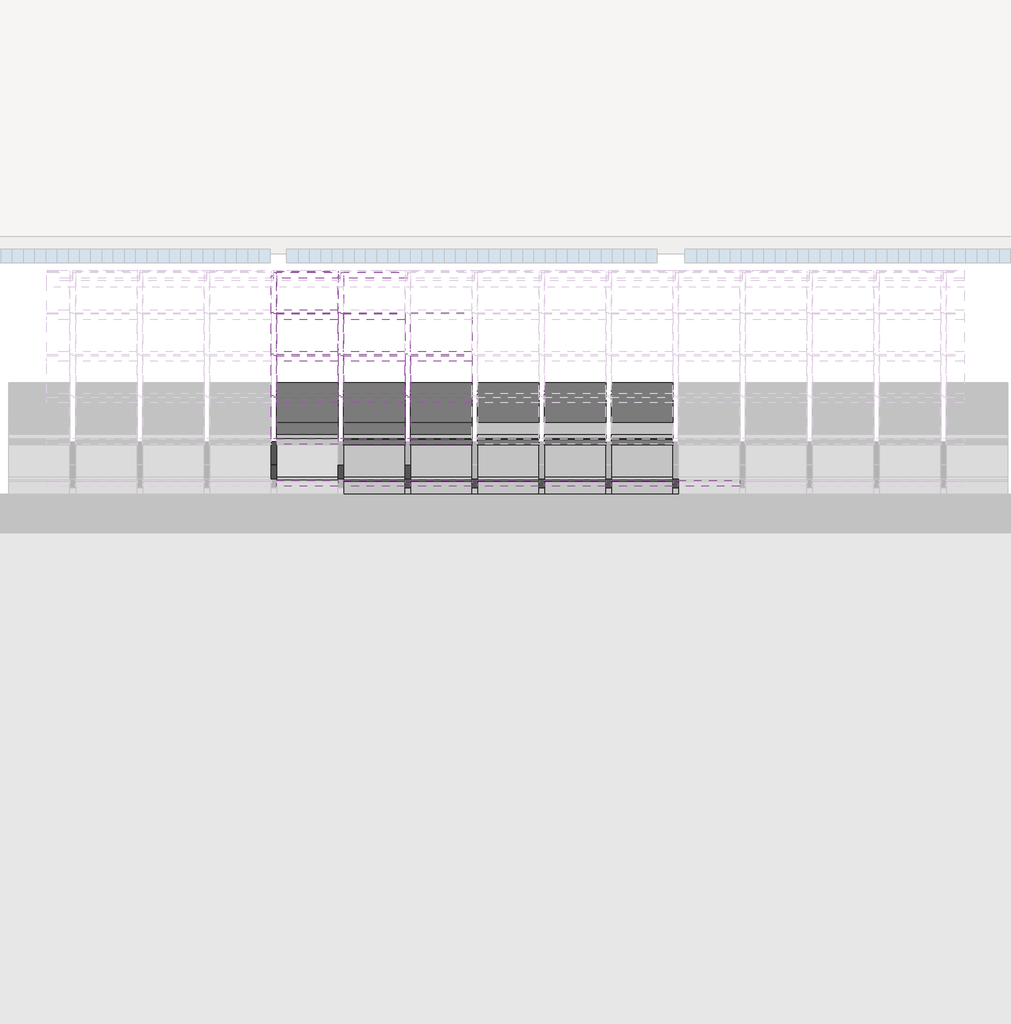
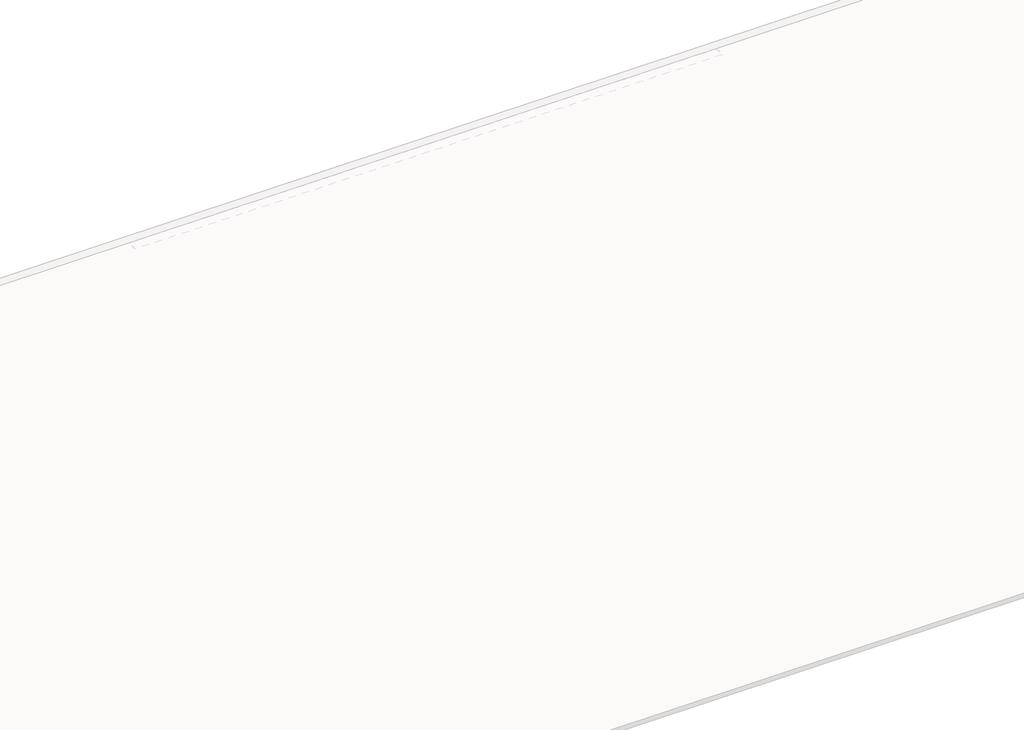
# One storey, part 32 of 57: 88 members, 35 plates.
"""IFC4 building model written with IfcOpenShell, lengths in millimetres."""

from ifc_helpers import new_model, si_unit, origin, place, context, project, spatial, transform, mapped, element, save
from components import rectangular_mullion_4c4137b9, rectangular_mullion_59984080, rectangular_mullion_2d2423ea, rectangular_mullion_caibro_df98490b, rectangular_mullion_caibro_e4384bba, rectangular_mullion_caibro_0993a3cf, rectangular_mullion_caibro_9bd7bc61, empty_system_panel_vazio_178faf58, empty_system_panel_vazio_2c78850d

model = new_model("IFC4")

# Units and contexts
model_context = context("Model", 3, world=origin())
ifc_project = project(units=[si_unit("LENGTHUNIT", "METRE", prefix="MILLI")], contexts=[model_context])

# Site, building, storey
site = spatial("IfcSite", under=ifc_project)
building = spatial("IfcBuilding", under=site)
storey = spatial("IfcBuildingStorey", under=building, Name="Nível 2", Elevation=4100.0)

# Members
placement = place(None, origin())
rectangular_mullion_shape = rectangular_mullion_4c4137b9(model_context)
element("IfcMember", 1, ObjectType="Rectangular Mullion : Ripa", at=placement, inside=storey, context=model_context, shape_type="MappedRepresentation", body=[
    mapped(rectangular_mullion_shape, transform((20260.3781013, 15566.1284427, 5819.8877114), x_axis=(0.0, 0.9578262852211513, 0.2873478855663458), y_axis=(0.0, 0.2873478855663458, -0.9578262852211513), z_axis=(-1.0, 0.0, 0.0))),
])
element("IfcMember", 2, ObjectType="Rectangular Mullion : Ripa", at=placement, inside=storey, context=model_context, shape_type="MappedRepresentation", body=[
    mapped(rectangular_mullion_shape, transform((20857.4328578, 15566.1284427, 5819.8877114), x_axis=(0.0, 0.9578262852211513, 0.2873478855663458), y_axis=(0.0, 0.2873478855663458, -0.9578262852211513), z_axis=(-1.0, 0.0, 0.0))),
])
rectangular_mullion_2_shape = rectangular_mullion_59984080(model_context)
element("IfcMember", 3, ObjectType="Rectangular Mullion : Ripa", at=placement, inside=storey, context=model_context, shape_type="MappedRepresentation", body=[
    mapped(rectangular_mullion_2_shape, transform((22076.5423706, 12234.5331147, 4820.409113), x_axis=(0.0, 0.9578262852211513, 0.2873478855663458), y_axis=(0.0, 0.2873478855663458, -0.9578262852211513), z_axis=(-1.0, 0.0, 0.0))),
])
element("IfcMember", 4, ObjectType="Rectangular Mullion : Ripa", at=placement, inside=storey, context=model_context, shape_type="MappedRepresentation", body=[
    mapped(rectangular_mullion_2_shape, transform((22673.597127, 12234.5331147, 4820.409113), x_axis=(0.0, 0.9578262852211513, 0.2873478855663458), y_axis=(0.0, 0.2873478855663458, -0.9578262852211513), z_axis=(-1.0, 0.0, 0.0))),
])
element("IfcMember", 5, ObjectType="Rectangular Mullion : Ripa", at=placement, inside=storey, context=model_context, shape_type="MappedRepresentation", body=[
    mapped(rectangular_mullion_2_shape, transform((23270.6518835, 12234.5331147, 4820.409113), x_axis=(0.0, 0.9578262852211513, 0.2873478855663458), y_axis=(0.0, 0.2873478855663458, -0.9578262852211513), z_axis=(-1.0, 0.0, 0.0))),
])
element("IfcMember", 6, ObjectType="Rectangular Mullion : Ripa", at=placement, inside=storey, context=model_context, shape_type="MappedRepresentation", body=[
    mapped(rectangular_mullion_2_shape, transform((23867.7066399, 12234.5331147, 4820.409113), x_axis=(0.0, 0.9578262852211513, 0.2873478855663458), y_axis=(0.0, 0.2873478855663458, -0.9578262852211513), z_axis=(-1.0, 0.0, 0.0))),
])
element("IfcMember", 7, ObjectType="Rectangular Mullion : Ripa", at=placement, inside=storey, context=model_context, shape_type="MappedRepresentation", body=[
    mapped(rectangular_mullion_2_shape, transform((22076.5423706, 12604.7103734, 4931.4622906), x_axis=(0.0, 0.9578262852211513, 0.2873478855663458), y_axis=(0.0, 0.2873478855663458, -0.9578262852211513), z_axis=(-1.0, 0.0, 0.0))),
])
element("IfcMember", 8, ObjectType="Rectangular Mullion : Ripa", at=placement, inside=storey, context=model_context, shape_type="MappedRepresentation", body=[
    mapped(rectangular_mullion_2_shape, transform((22673.597127, 12604.7103734, 4931.4622906), x_axis=(0.0, 0.9578262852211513, 0.2873478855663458), y_axis=(0.0, 0.2873478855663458, -0.9578262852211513), z_axis=(-1.0, 0.0, 0.0))),
])
element("IfcMember", 9, ObjectType="Rectangular Mullion : Ripa", at=placement, inside=storey, context=model_context, shape_type="MappedRepresentation", body=[
    mapped(rectangular_mullion_2_shape, transform((23270.6518835, 12604.7103734, 4931.4622906), x_axis=(0.0, 0.9578262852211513, 0.2873478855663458), y_axis=(0.0, 0.2873478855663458, -0.9578262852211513), z_axis=(-1.0, 0.0, 0.0))),
])
element("IfcMember", 10, ObjectType="Rectangular Mullion : Ripa", at=placement, inside=storey, context=model_context, shape_type="MappedRepresentation", body=[
    mapped(rectangular_mullion_2_shape, transform((23867.7066399, 12604.7103734, 4931.4622906), x_axis=(0.0, 0.9578262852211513, 0.2873478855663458), y_axis=(0.0, 0.2873478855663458, -0.9578262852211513), z_axis=(-1.0, 0.0, 0.0))),
])
element("IfcMember", 11, ObjectType="Rectangular Mullion : Ripa", at=placement, inside=storey, context=model_context, shape_type="MappedRepresentation", body=[
    mapped(rectangular_mullion_2_shape, transform((22076.5423706, 12974.8876321, 5042.5154682), x_axis=(0.0, 0.9578262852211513, 0.2873478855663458), y_axis=(0.0, 0.2873478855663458, -0.9578262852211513), z_axis=(-1.0, 0.0, 0.0))),
])
element("IfcMember", 12, ObjectType="Rectangular Mullion : Ripa", at=placement, inside=storey, context=model_context, shape_type="MappedRepresentation", body=[
    mapped(rectangular_mullion_2_shape, transform((22673.597127, 12974.8876321, 5042.5154682), x_axis=(0.0, 0.9578262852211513, 0.2873478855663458), y_axis=(0.0, 0.2873478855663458, -0.9578262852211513), z_axis=(-1.0, 0.0, 0.0))),
])
element("IfcMember", 13, ObjectType="Rectangular Mullion : Ripa", at=placement, inside=storey, context=model_context, shape_type="MappedRepresentation", body=[
    mapped(rectangular_mullion_2_shape, transform((23270.6518835, 12974.8876321, 5042.5154682), x_axis=(0.0, 0.9578262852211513, 0.2873478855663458), y_axis=(0.0, 0.2873478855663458, -0.9578262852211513), z_axis=(-1.0, 0.0, 0.0))),
])
element("IfcMember", 14, ObjectType="Rectangular Mullion : Ripa", at=placement, inside=storey, context=model_context, shape_type="MappedRepresentation", body=[
    mapped(rectangular_mullion_2_shape, transform((23867.7066399, 12974.8876321, 5042.5154682), x_axis=(0.0, 0.9578262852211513, 0.2873478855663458), y_axis=(0.0, 0.2873478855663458, -0.9578262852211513), z_axis=(-1.0, 0.0, 0.0))),
])
element("IfcMember", 15, ObjectType="Rectangular Mullion : Ripa", at=placement, inside=storey, context=model_context, shape_type="MappedRepresentation", body=[
    mapped(rectangular_mullion_2_shape, transform((20882.4328578, 13345.0648907, 5153.5686458), x_axis=(0.0, 0.9578262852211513, 0.2873478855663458), y_axis=(0.0, 0.2873478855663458, -0.9578262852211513), z_axis=(-1.0, 0.0, 0.0))),
])
element("IfcMember", 16, ObjectType="Rectangular Mullion : Ripa", at=placement, inside=storey, context=model_context, shape_type="MappedRepresentation", body=[
    mapped(rectangular_mullion_2_shape, transform((21479.4876142, 13345.0648907, 5153.5686458), x_axis=(0.0, 0.9578262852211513, 0.2873478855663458), y_axis=(0.0, 0.2873478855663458, -0.9578262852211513), z_axis=(-1.0, 0.0, 0.0))),
])
element("IfcMember", 17, ObjectType="Rectangular Mullion : Ripa", at=placement, inside=storey, context=model_context, shape_type="MappedRepresentation", body=[
    mapped(rectangular_mullion_2_shape, transform((22076.5423706, 13345.0648907, 5153.5686458), x_axis=(0.0, 0.9578262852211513, 0.2873478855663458), y_axis=(0.0, 0.2873478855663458, -0.9578262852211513), z_axis=(-1.0, 0.0, 0.0))),
])
element("IfcMember", 18, ObjectType="Rectangular Mullion : Ripa", at=placement, inside=storey, context=model_context, shape_type="MappedRepresentation", body=[
    mapped(rectangular_mullion_2_shape, transform((22673.597127, 13345.0648907, 5153.5686458), x_axis=(0.0, 0.9578262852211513, 0.2873478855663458), y_axis=(0.0, 0.2873478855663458, -0.9578262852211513), z_axis=(-1.0, 0.0, 0.0))),
])
element("IfcMember", 19, ObjectType="Rectangular Mullion : Ripa", at=placement, inside=storey, context=model_context, shape_type="MappedRepresentation", body=[
    mapped(rectangular_mullion_2_shape, transform((23270.6518835, 13345.0648907, 5153.5686458), x_axis=(0.0, 0.9578262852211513, 0.2873478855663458), y_axis=(0.0, 0.2873478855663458, -0.9578262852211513), z_axis=(-1.0, 0.0, 0.0))),
])
element("IfcMember", 20, ObjectType="Rectangular Mullion : Ripa", at=placement, inside=storey, context=model_context, shape_type="MappedRepresentation", body=[
    mapped(rectangular_mullion_2_shape, transform((23867.7066399, 13345.0648907, 5153.5686458), x_axis=(0.0, 0.9578262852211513, 0.2873478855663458), y_axis=(0.0, 0.2873478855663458, -0.9578262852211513), z_axis=(-1.0, 0.0, 0.0))),
])
element("IfcMember", 21, ObjectType="Rectangular Mullion : Ripa", at=placement, inside=storey, context=model_context, shape_type="MappedRepresentation", body=[
    mapped(rectangular_mullion_2_shape, transform((20285.3781013, 13715.2421494, 5264.6218234), x_axis=(0.0, 0.9578262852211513, 0.2873478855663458), y_axis=(0.0, 0.2873478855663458, -0.9578262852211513), z_axis=(-1.0, 0.0, 0.0))),
])
element("IfcMember", 22, ObjectType="Rectangular Mullion : Ripa", at=placement, inside=storey, context=model_context, shape_type="MappedRepresentation", body=[
    mapped(rectangular_mullion_2_shape, transform((20882.4328578, 13715.2421494, 5264.6218234), x_axis=(0.0, 0.9578262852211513, 0.2873478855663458), y_axis=(0.0, 0.2873478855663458, -0.9578262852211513), z_axis=(-1.0, 0.0, 0.0))),
])
element("IfcMember", 23, ObjectType="Rectangular Mullion : Ripa", at=placement, inside=storey, context=model_context, shape_type="MappedRepresentation", body=[
    mapped(rectangular_mullion_2_shape, transform((21479.4876142, 13715.2421494, 5264.6218234), x_axis=(0.0, 0.9578262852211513, 0.2873478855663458), y_axis=(0.0, 0.2873478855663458, -0.9578262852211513), z_axis=(-1.0, 0.0, 0.0))),
])
element("IfcMember", 24, ObjectType="Rectangular Mullion : Ripa", at=placement, inside=storey, context=model_context, shape_type="MappedRepresentation", body=[
    mapped(rectangular_mullion_2_shape, transform((22076.5423706, 13715.2421494, 5264.6218234), x_axis=(0.0, 0.9578262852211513, 0.2873478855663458), y_axis=(0.0, 0.2873478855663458, -0.9578262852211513), z_axis=(-1.0, 0.0, 0.0))),
])
element("IfcMember", 25, ObjectType="Rectangular Mullion : Ripa", at=placement, inside=storey, context=model_context, shape_type="MappedRepresentation", body=[
    mapped(rectangular_mullion_2_shape, transform((22673.597127, 13715.2421494, 5264.6218234), x_axis=(0.0, 0.9578262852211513, 0.2873478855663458), y_axis=(0.0, 0.2873478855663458, -0.9578262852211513), z_axis=(-1.0, 0.0, 0.0))),
])
element("IfcMember", 26, ObjectType="Rectangular Mullion : Ripa", at=placement, inside=storey, context=model_context, shape_type="MappedRepresentation", body=[
    mapped(rectangular_mullion_2_shape, transform((23270.6518835, 13715.2421494, 5264.6218234), x_axis=(0.0, 0.9578262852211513, 0.2873478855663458), y_axis=(0.0, 0.2873478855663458, -0.9578262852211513), z_axis=(-1.0, 0.0, 0.0))),
])
element("IfcMember", 27, ObjectType="Rectangular Mullion : Ripa", at=placement, inside=storey, context=model_context, shape_type="MappedRepresentation", body=[
    mapped(rectangular_mullion_2_shape, transform((23867.7066399, 13715.2421494, 5264.6218234), x_axis=(0.0, 0.9578262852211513, 0.2873478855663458), y_axis=(0.0, 0.2873478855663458, -0.9578262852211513), z_axis=(-1.0, 0.0, 0.0))),
])
element("IfcMember", 28, ObjectType="Rectangular Mullion : Ripa", at=placement, inside=storey, context=model_context, shape_type="MappedRepresentation", body=[
    mapped(rectangular_mullion_2_shape, transform((20285.3781013, 14085.4194081, 5375.675001), x_axis=(0.0, 0.9578262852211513, 0.2873478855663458), y_axis=(0.0, 0.2873478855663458, -0.9578262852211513), z_axis=(-1.0, 0.0, 0.0))),
])
element("IfcMember", 29, ObjectType="Rectangular Mullion : Ripa", at=placement, inside=storey, context=model_context, shape_type="MappedRepresentation", body=[
    mapped(rectangular_mullion_2_shape, transform((20882.4328578, 14085.4194081, 5375.675001), x_axis=(0.0, 0.9578262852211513, 0.2873478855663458), y_axis=(0.0, 0.2873478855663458, -0.9578262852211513), z_axis=(-1.0, 0.0, 0.0))),
])
element("IfcMember", 30, ObjectType="Rectangular Mullion : Ripa", at=placement, inside=storey, context=model_context, shape_type="MappedRepresentation", body=[
    mapped(rectangular_mullion_2_shape, transform((21479.4876142, 14085.4194081, 5375.675001), x_axis=(0.0, 0.9578262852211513, 0.2873478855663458), y_axis=(0.0, 0.2873478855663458, -0.9578262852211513), z_axis=(-1.0, 0.0, 0.0))),
])
element("IfcMember", 31, ObjectType="Rectangular Mullion : Ripa", at=placement, inside=storey, context=model_context, shape_type="MappedRepresentation", body=[
    mapped(rectangular_mullion_2_shape, transform((20285.3781013, 14455.5966667, 5486.7281786), x_axis=(0.0, 0.9578262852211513, 0.2873478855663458), y_axis=(0.0, 0.2873478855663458, -0.9578262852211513), z_axis=(-1.0, 0.0, 0.0))),
])
element("IfcMember", 32, ObjectType="Rectangular Mullion : Ripa", at=placement, inside=storey, context=model_context, shape_type="MappedRepresentation", body=[
    mapped(rectangular_mullion_2_shape, transform((20882.4328578, 14455.5966667, 5486.7281786), x_axis=(0.0, 0.9578262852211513, 0.2873478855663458), y_axis=(0.0, 0.2873478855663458, -0.9578262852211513), z_axis=(-1.0, 0.0, 0.0))),
])
element("IfcMember", 33, ObjectType="Rectangular Mullion : Ripa", at=placement, inside=storey, context=model_context, shape_type="MappedRepresentation", body=[
    mapped(rectangular_mullion_2_shape, transform((21479.4876142, 14455.5966667, 5486.7281786), x_axis=(0.0, 0.9578262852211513, 0.2873478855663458), y_axis=(0.0, 0.2873478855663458, -0.9578262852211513), z_axis=(-1.0, 0.0, 0.0))),
])
element("IfcMember", 34, ObjectType="Rectangular Mullion : Ripa", at=placement, inside=storey, context=model_context, shape_type="MappedRepresentation", body=[
    mapped(rectangular_mullion_2_shape, transform((20285.3781013, 14825.7739254, 5597.7813562), x_axis=(0.0, 0.9578262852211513, 0.2873478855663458), y_axis=(0.0, 0.2873478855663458, -0.9578262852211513), z_axis=(-1.0, 0.0, 0.0))),
])
element("IfcMember", 35, ObjectType="Rectangular Mullion : Ripa", at=placement, inside=storey, context=model_context, shape_type="MappedRepresentation", body=[
    mapped(rectangular_mullion_2_shape, transform((20882.4328578, 14825.7739254, 5597.7813562), x_axis=(0.0, 0.9578262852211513, 0.2873478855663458), y_axis=(0.0, 0.2873478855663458, -0.9578262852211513), z_axis=(-1.0, 0.0, 0.0))),
])
element("IfcMember", 36, ObjectType="Rectangular Mullion : Ripa", at=placement, inside=storey, context=model_context, shape_type="MappedRepresentation", body=[
    mapped(rectangular_mullion_2_shape, transform((21479.4876142, 14825.7739254, 5597.7813562), x_axis=(0.0, 0.9578262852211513, 0.2873478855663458), y_axis=(0.0, 0.2873478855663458, -0.9578262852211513), z_axis=(-1.0, 0.0, 0.0))),
])
element("IfcMember", 37, ObjectType="Rectangular Mullion : Ripa", at=placement, inside=storey, context=model_context, shape_type="MappedRepresentation", body=[
    mapped(rectangular_mullion_2_shape, transform((20285.3781013, 15195.9511841, 5708.8345338), x_axis=(0.0, 0.9578262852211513, 0.2873478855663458), y_axis=(0.0, 0.2873478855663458, -0.9578262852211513), z_axis=(-1.0, 0.0, 0.0))),
])
element("IfcMember", 38, ObjectType="Rectangular Mullion : Ripa", at=placement, inside=storey, context=model_context, shape_type="MappedRepresentation", body=[
    mapped(rectangular_mullion_2_shape, transform((20882.4328578, 15195.9511841, 5708.8345338), x_axis=(0.0, 0.9578262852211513, 0.2873478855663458), y_axis=(0.0, 0.2873478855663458, -0.9578262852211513), z_axis=(-1.0, 0.0, 0.0))),
])
rectangular_mullion_3_shape = rectangular_mullion_2d2423ea(model_context)
element("IfcMember", 39, ObjectType="Rectangular Mullion : Terça", at=placement, inside=storey, context=model_context, shape_type="MappedRepresentation", body=[
    mapped(rectangular_mullion_3_shape, transform((20285.3781013, 13411.2689826, 5110.7880343), x_axis=(0.0, 0.9578262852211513, 0.2873478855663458), y_axis=(0.0, 0.2873478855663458, -0.9578262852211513), z_axis=(-1.0, 0.0, 0.0))),
])
element("IfcMember", 40, ObjectType="Rectangular Mullion : Terça", at=placement, inside=storey, context=model_context, shape_type="MappedRepresentation", body=[
    mapped(rectangular_mullion_3_shape, transform((20882.4328578, 13411.2689826, 5110.7880343), x_axis=(0.0, 0.9578262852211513, 0.2873478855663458), y_axis=(0.0, 0.2873478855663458, -0.9578262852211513), z_axis=(-1.0, 0.0, 0.0))),
])
element("IfcMember", 41, ObjectType="Rectangular Mullion : Terça", at=placement, inside=storey, context=model_context, shape_type="MappedRepresentation", body=[
    mapped(rectangular_mullion_3_shape, transform((21479.4876142, 13411.2689826, 5110.7880343), x_axis=(0.0, 0.9578262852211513, 0.2873478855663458), y_axis=(0.0, 0.2873478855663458, -0.9578262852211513), z_axis=(-1.0, 0.0, 0.0))),
])
element("IfcMember", 42, ObjectType="Rectangular Mullion : Terça", at=placement, inside=storey, context=model_context, shape_type="MappedRepresentation", body=[
    mapped(rectangular_mullion_3_shape, transform((22076.5423706, 13411.2689826, 5110.7880343), x_axis=(0.0, 0.9578262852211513, 0.2873478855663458), y_axis=(0.0, 0.2873478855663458, -0.9578262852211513), z_axis=(-1.0, 0.0, 0.0))),
])
element("IfcMember", 43, ObjectType="Rectangular Mullion : Terça", at=placement, inside=storey, context=model_context, shape_type="MappedRepresentation", body=[
    mapped(rectangular_mullion_3_shape, transform((22673.597127, 13411.2689826, 5110.7880343), x_axis=(0.0, 0.9578262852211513, 0.2873478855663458), y_axis=(0.0, 0.2873478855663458, -0.9578262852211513), z_axis=(-1.0, 0.0, 0.0))),
])
element("IfcMember", 44, ObjectType="Rectangular Mullion : Terça", at=placement, inside=storey, context=model_context, shape_type="MappedRepresentation", body=[
    mapped(rectangular_mullion_3_shape, transform((23270.6518835, 13411.2689826, 5110.7880343), x_axis=(0.0, 0.9578262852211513, 0.2873478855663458), y_axis=(0.0, 0.2873478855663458, -0.9578262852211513), z_axis=(-1.0, 0.0, 0.0))),
])
element("IfcMember", 45, ObjectType="Rectangular Mullion : Terça", at=placement, inside=storey, context=model_context, shape_type="MappedRepresentation", body=[
    mapped(rectangular_mullion_3_shape, transform((23867.7066399, 13411.2689826, 5110.7880343), x_axis=(0.0, 0.9578262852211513, 0.2873478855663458), y_axis=(0.0, 0.2873478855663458, -0.9578262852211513), z_axis=(-1.0, 0.0, 0.0))),
])
rectangular_mullion_caibro_shape = rectangular_mullion_caibro_df98490b(model_context)
element("IfcMember", 46, ObjectType="Rectangular Mullion : Caibro", at=placement, inside=storey, context=model_context, shape_type="MappedRepresentation", body=[
    mapped(rectangular_mullion_caibro_shape, transform((20260.3781013, 15518.2371285, 5805.5203171), x_axis=(1.0, 0.0, 0.0), y_axis=(0.0, 0.28734788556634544, -0.9578262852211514), z_axis=(0.0, 0.9578262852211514, 0.28734788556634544))),
])
element("IfcMember", 47, ObjectType="Rectangular Mullion : Caibro", at=placement, inside=storey, context=model_context, shape_type="MappedRepresentation", body=[
    mapped(rectangular_mullion_caibro_shape, transform((20857.4328578, 15518.2371285, 5805.5203171), x_axis=(1.0, 0.0, 0.0), y_axis=(0.0, 0.28734788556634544, -0.9578262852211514), z_axis=(0.0, 0.9578262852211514, 0.28734788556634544))),
])
rectangular_mullion_caibro_2_shape = rectangular_mullion_caibro_e4384bba(model_context)
element("IfcMember", 48, ObjectType="Rectangular Mullion : Caibro", at=placement, inside=storey, context=model_context, shape_type="MappedRepresentation", body=[
    mapped(rectangular_mullion_caibro_2_shape, transform((20260.3781013, 14085.4194081, 5375.675001), x_axis=(1.0, 0.0, 0.0), y_axis=(0.0, 0.28734788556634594, -0.9578262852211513), z_axis=(0.0, 0.9578262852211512, 0.2873478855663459))),
])
element("IfcMember", 49, ObjectType="Rectangular Mullion : Caibro", at=placement, inside=storey, context=model_context, shape_type="MappedRepresentation", body=[
    mapped(rectangular_mullion_caibro_2_shape, transform((20260.3781013, 14455.5966667, 5486.7281786), x_axis=(1.0, 0.0, 0.0), y_axis=(0.0, 0.2873478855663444, -0.9578262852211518), z_axis=(0.0, 0.9578262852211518, 0.2873478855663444))),
])
element("IfcMember", 50, ObjectType="Rectangular Mullion : Caibro", at=placement, inside=storey, context=model_context, shape_type="MappedRepresentation", body=[
    mapped(rectangular_mullion_caibro_2_shape, transform((20260.3781013, 14825.7739254, 5597.7813562), x_axis=(1.0, 0.0, 0.0), y_axis=(0.0, 0.287347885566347, -0.9578262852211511), z_axis=(0.0, 0.9578262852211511, 0.287347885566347))),
])
element("IfcMember", 51, ObjectType="Rectangular Mullion : Caibro", at=placement, inside=storey, context=model_context, shape_type="MappedRepresentation", body=[
    mapped(rectangular_mullion_caibro_2_shape, transform((20260.3781013, 15195.9511841, 5708.8345338), x_axis=(1.0, 0.0, 0.0), y_axis=(0.0, 0.28734788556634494, -0.9578262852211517), z_axis=(0.0, 0.9578262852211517, 0.28734788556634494))),
])
element("IfcMember", 52, ObjectType="Rectangular Mullion : Caibro", at=placement, inside=storey, context=model_context, shape_type="MappedRepresentation", body=[
    mapped(rectangular_mullion_caibro_2_shape, transform((20857.4328578, 14085.4194081, 5375.675001), x_axis=(1.0, 0.0, 0.0), y_axis=(0.0, 0.28734788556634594, -0.9578262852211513), z_axis=(0.0, 0.9578262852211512, 0.2873478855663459))),
])
element("IfcMember", 53, ObjectType="Rectangular Mullion : Caibro", at=placement, inside=storey, context=model_context, shape_type="MappedRepresentation", body=[
    mapped(rectangular_mullion_caibro_2_shape, transform((20857.4328578, 14455.5966667, 5486.7281786), x_axis=(1.0, 0.0, 0.0), y_axis=(0.0, 0.2873478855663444, -0.9578262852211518), z_axis=(0.0, 0.9578262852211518, 0.2873478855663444))),
])
element("IfcMember", 54, ObjectType="Rectangular Mullion : Caibro", at=placement, inside=storey, context=model_context, shape_type="MappedRepresentation", body=[
    mapped(rectangular_mullion_caibro_2_shape, transform((20857.4328578, 14825.7739254, 5597.7813562), x_axis=(1.0, 0.0, 0.0), y_axis=(0.0, 0.287347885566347, -0.9578262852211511), z_axis=(0.0, 0.9578262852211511, 0.287347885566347))),
])
element("IfcMember", 55, ObjectType="Rectangular Mullion : Caibro", at=placement, inside=storey, context=model_context, shape_type="MappedRepresentation", body=[
    mapped(rectangular_mullion_caibro_2_shape, transform((20857.4328578, 15195.9511841, 5708.8345338), x_axis=(1.0, 0.0, 0.0), y_axis=(0.0, 0.28734788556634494, -0.9578262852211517), z_axis=(0.0, 0.9578262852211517, 0.28734788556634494))),
])
element("IfcMember", 56, ObjectType="Rectangular Mullion : Caibro", at=placement, inside=storey, context=model_context, shape_type="MappedRepresentation", body=[
    mapped(rectangular_mullion_caibro_2_shape, transform((21454.4876142, 13345.0648907, 5153.5686458), x_axis=(1.0, 0.0, 0.0), y_axis=(0.0, 0.28734788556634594, -0.9578262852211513), z_axis=(0.0, 0.9578262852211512, 0.2873478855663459))),
])
element("IfcMember", 57, ObjectType="Rectangular Mullion : Caibro", at=placement, inside=storey, context=model_context, shape_type="MappedRepresentation", body=[
    mapped(rectangular_mullion_caibro_2_shape, transform((21454.4876142, 13715.2421494, 5264.6218234), x_axis=(1.0, 0.0, 0.0), y_axis=(0.0, 0.28734788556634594, -0.9578262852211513), z_axis=(0.0, 0.9578262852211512, 0.2873478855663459))),
])
element("IfcMember", 58, ObjectType="Rectangular Mullion : Caibro", at=placement, inside=storey, context=model_context, shape_type="MappedRepresentation", body=[
    mapped(rectangular_mullion_caibro_2_shape, transform((21454.4876142, 14085.4194081, 5375.675001), x_axis=(1.0, 0.0, 0.0), y_axis=(0.0, 0.28734788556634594, -0.9578262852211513), z_axis=(0.0, 0.9578262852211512, 0.2873478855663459))),
])
element("IfcMember", 59, ObjectType="Rectangular Mullion : Caibro", at=placement, inside=storey, context=model_context, shape_type="MappedRepresentation", body=[
    mapped(rectangular_mullion_caibro_2_shape, transform((21454.4876142, 14455.5966667, 5486.7281786), x_axis=(1.0, 0.0, 0.0), y_axis=(0.0, 0.2873478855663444, -0.9578262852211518), z_axis=(0.0, 0.9578262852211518, 0.2873478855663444))),
])
element("IfcMember", 60, ObjectType="Rectangular Mullion : Caibro", at=placement, inside=storey, context=model_context, shape_type="MappedRepresentation", body=[
    mapped(rectangular_mullion_caibro_2_shape, transform((21454.4876142, 14825.7739254, 5597.7813562), x_axis=(1.0, 0.0, 0.0), y_axis=(0.0, 0.287347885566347, -0.9578262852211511), z_axis=(0.0, 0.9578262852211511, 0.287347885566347))),
])
element("IfcMember", 61, ObjectType="Rectangular Mullion : Caibro", at=placement, inside=storey, context=model_context, shape_type="MappedRepresentation", body=[
    mapped(rectangular_mullion_caibro_2_shape, transform((22051.5423706, 12234.5331147, 4820.409113), x_axis=(1.0, 0.0, 0.0), y_axis=(0.0, 0.2873478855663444, -0.9578262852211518), z_axis=(0.0, 0.9578262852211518, 0.2873478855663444))),
])
element("IfcMember", 62, ObjectType="Rectangular Mullion : Caibro", at=placement, inside=storey, context=model_context, shape_type="MappedRepresentation", body=[
    mapped(rectangular_mullion_caibro_2_shape, transform((22051.5423706, 12604.7103734, 4931.4622906), x_axis=(1.0, 0.0, 0.0), y_axis=(0.0, 0.2873478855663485, -0.9578262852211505), z_axis=(0.0, 0.9578262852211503, 0.28734788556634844))),
])
element("IfcMember", 63, ObjectType="Rectangular Mullion : Caibro", at=placement, inside=storey, context=model_context, shape_type="MappedRepresentation", body=[
    mapped(rectangular_mullion_caibro_2_shape, transform((22051.5423706, 12974.8876321, 5042.5154682), x_axis=(1.0, 0.0, 0.0), y_axis=(0.0, 0.2873478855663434, -0.957826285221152), z_axis=(0.0, 0.957826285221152, 0.2873478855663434))),
])
element("IfcMember", 64, ObjectType="Rectangular Mullion : Caibro", at=placement, inside=storey, context=model_context, shape_type="MappedRepresentation", body=[
    mapped(rectangular_mullion_caibro_2_shape, transform((22051.5423706, 13345.0648907, 5153.5686458), x_axis=(1.0, 0.0, 0.0), y_axis=(0.0, 0.28734788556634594, -0.9578262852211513), z_axis=(0.0, 0.9578262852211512, 0.2873478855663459))),
])
element("IfcMember", 65, ObjectType="Rectangular Mullion : Caibro", at=placement, inside=storey, context=model_context, shape_type="MappedRepresentation", body=[
    mapped(rectangular_mullion_caibro_2_shape, transform((22051.5423706, 13715.2421494, 5264.6218234), x_axis=(1.0, 0.0, 0.0), y_axis=(0.0, 0.28734788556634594, -0.9578262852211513), z_axis=(0.0, 0.9578262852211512, 0.2873478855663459))),
])
element("IfcMember", 66, ObjectType="Rectangular Mullion : Caibro", at=placement, inside=storey, context=model_context, shape_type="MappedRepresentation", body=[
    mapped(rectangular_mullion_caibro_2_shape, transform((22648.597127, 12234.5331147, 4820.409113), x_axis=(1.0, 0.0, 0.0), y_axis=(0.0, 0.2873478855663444, -0.9578262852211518), z_axis=(0.0, 0.9578262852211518, 0.2873478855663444))),
])
element("IfcMember", 67, ObjectType="Rectangular Mullion : Caibro", at=placement, inside=storey, context=model_context, shape_type="MappedRepresentation", body=[
    mapped(rectangular_mullion_caibro_2_shape, transform((22648.597127, 12604.7103734, 4931.4622906), x_axis=(1.0, 0.0, 0.0), y_axis=(0.0, 0.2873478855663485, -0.9578262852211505), z_axis=(0.0, 0.9578262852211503, 0.28734788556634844))),
])
element("IfcMember", 68, ObjectType="Rectangular Mullion : Caibro", at=placement, inside=storey, context=model_context, shape_type="MappedRepresentation", body=[
    mapped(rectangular_mullion_caibro_2_shape, transform((22648.597127, 12974.8876321, 5042.5154682), x_axis=(1.0, 0.0, 0.0), y_axis=(0.0, 0.2873478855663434, -0.957826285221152), z_axis=(0.0, 0.957826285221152, 0.2873478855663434))),
])
element("IfcMember", 69, ObjectType="Rectangular Mullion : Caibro", at=placement, inside=storey, context=model_context, shape_type="MappedRepresentation", body=[
    mapped(rectangular_mullion_caibro_2_shape, transform((22648.597127, 13345.0648907, 5153.5686458), x_axis=(1.0, 0.0, 0.0), y_axis=(0.0, 0.28734788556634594, -0.9578262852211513), z_axis=(0.0, 0.9578262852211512, 0.2873478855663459))),
])
element("IfcMember", 70, ObjectType="Rectangular Mullion : Caibro", at=placement, inside=storey, context=model_context, shape_type="MappedRepresentation", body=[
    mapped(rectangular_mullion_caibro_2_shape, transform((22648.597127, 13715.2421494, 5264.6218234), x_axis=(1.0, 0.0, 0.0), y_axis=(0.0, 0.28734788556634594, -0.9578262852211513), z_axis=(0.0, 0.9578262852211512, 0.2873478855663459))),
])
element("IfcMember", 71, ObjectType="Rectangular Mullion : Caibro", at=placement, inside=storey, context=model_context, shape_type="MappedRepresentation", body=[
    mapped(rectangular_mullion_caibro_2_shape, transform((23245.6518835, 12234.5331147, 4820.409113), x_axis=(1.0, 0.0, 0.0), y_axis=(0.0, 0.2873478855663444, -0.9578262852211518), z_axis=(0.0, 0.9578262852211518, 0.2873478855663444))),
])
element("IfcMember", 72, ObjectType="Rectangular Mullion : Caibro", at=placement, inside=storey, context=model_context, shape_type="MappedRepresentation", body=[
    mapped(rectangular_mullion_caibro_2_shape, transform((23245.6518835, 12604.7103734, 4931.4622906), x_axis=(1.0, 0.0, 0.0), y_axis=(0.0, 0.28734788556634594, -0.9578262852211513), z_axis=(0.0, 0.9578262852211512, 0.2873478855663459))),
])
element("IfcMember", 73, ObjectType="Rectangular Mullion : Caibro", at=placement, inside=storey, context=model_context, shape_type="MappedRepresentation", body=[
    mapped(rectangular_mullion_caibro_2_shape, transform((23245.6518835, 12974.8876321, 5042.5154682), x_axis=(1.0, 0.0, 0.0), y_axis=(0.0, 0.28734788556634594, -0.9578262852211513), z_axis=(0.0, 0.9578262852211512, 0.2873478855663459))),
])
element("IfcMember", 74, ObjectType="Rectangular Mullion : Caibro", at=placement, inside=storey, context=model_context, shape_type="MappedRepresentation", body=[
    mapped(rectangular_mullion_caibro_2_shape, transform((23245.6518835, 13345.0648907, 5153.5686458), x_axis=(1.0, 0.0, 0.0), y_axis=(0.0, 0.28734788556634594, -0.9578262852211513), z_axis=(0.0, 0.9578262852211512, 0.2873478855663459))),
])
element("IfcMember", 75, ObjectType="Rectangular Mullion : Caibro", at=placement, inside=storey, context=model_context, shape_type="MappedRepresentation", body=[
    mapped(rectangular_mullion_caibro_2_shape, transform((23245.6518835, 13715.2421494, 5264.6218234), x_axis=(1.0, 0.0, 0.0), y_axis=(0.0, 0.28734788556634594, -0.9578262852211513), z_axis=(0.0, 0.9578262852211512, 0.2873478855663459))),
])
element("IfcMember", 76, ObjectType="Rectangular Mullion : Caibro", at=placement, inside=storey, context=model_context, shape_type="MappedRepresentation", body=[
    mapped(rectangular_mullion_caibro_2_shape, transform((23842.7066399, 12234.5331147, 4820.409113), x_axis=(1.0, 0.0, 0.0), y_axis=(0.0, 0.2873478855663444, -0.9578262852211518), z_axis=(0.0, 0.9578262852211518, 0.2873478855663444))),
])
element("IfcMember", 77, ObjectType="Rectangular Mullion : Caibro", at=placement, inside=storey, context=model_context, shape_type="MappedRepresentation", body=[
    mapped(rectangular_mullion_caibro_2_shape, transform((23842.7066399, 12604.7103734, 4931.4622906), x_axis=(1.0, 0.0, 0.0), y_axis=(0.0, 0.2873478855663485, -0.9578262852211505), z_axis=(0.0, 0.9578262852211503, 0.28734788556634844))),
])
element("IfcMember", 78, ObjectType="Rectangular Mullion : Caibro", at=placement, inside=storey, context=model_context, shape_type="MappedRepresentation", body=[
    mapped(rectangular_mullion_caibro_2_shape, transform((23842.7066399, 12974.8876321, 5042.5154682), x_axis=(1.0, 0.0, 0.0), y_axis=(0.0, 0.2873478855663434, -0.957826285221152), z_axis=(0.0, 0.957826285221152, 0.2873478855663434))),
])
element("IfcMember", 79, ObjectType="Rectangular Mullion : Caibro", at=placement, inside=storey, context=model_context, shape_type="MappedRepresentation", body=[
    mapped(rectangular_mullion_caibro_2_shape, transform((23842.7066399, 13345.0648907, 5153.5686458), x_axis=(1.0, 0.0, 0.0), y_axis=(0.0, 0.28734788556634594, -0.9578262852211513), z_axis=(0.0, 0.9578262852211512, 0.2873478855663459))),
])
element("IfcMember", 80, ObjectType="Rectangular Mullion : Caibro", at=placement, inside=storey, context=model_context, shape_type="MappedRepresentation", body=[
    mapped(rectangular_mullion_caibro_2_shape, transform((23842.7066399, 13715.2421494, 5264.6218234), x_axis=(1.0, 0.0, 0.0), y_axis=(0.0, 0.28734788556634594, -0.9578262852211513), z_axis=(0.0, 0.9578262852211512, 0.2873478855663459))),
])
rectangular_mullion_caibro_3_shape = rectangular_mullion_caibro_0993a3cf(model_context)
element("IfcMember", 81, ObjectType="Rectangular Mullion : Caibro", at=placement, inside=storey, context=model_context, shape_type="MappedRepresentation", body=[
    mapped(rectangular_mullion_caibro_3_shape, transform((20260.3781013, 15508.6588656, 5740.0049992), x_axis=(1.0, 0.0, 0.0), y_axis=(0.0, 0.28734788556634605, -0.9578262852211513), z_axis=(0.0, 0.9578262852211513, 0.28734788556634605))),
])
rectangular_mullion_caibro_4_shape = rectangular_mullion_caibro_9bd7bc61(model_context)
element("IfcMember", 82, ObjectType="Rectangular Mullion : Caibro", at=placement, inside=storey, context=model_context, shape_type="MappedRepresentation", body=[
    mapped(rectangular_mullion_caibro_4_shape, transform((20260.3781013, 13411.2689826, 5110.7880343), x_axis=(1.0, 0.0, 0.0), y_axis=(0.0, 0.2873478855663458, -0.9578262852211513), z_axis=(0.0, 0.9578262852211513, 0.2873478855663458))),
])
element("IfcMember", 83, ObjectType="Rectangular Mullion : Caibro", at=placement, inside=storey, context=model_context, shape_type="MappedRepresentation", body=[
    mapped(rectangular_mullion_caibro_4_shape, transform((20857.4328578, 13411.2689826, 5110.7880343), x_axis=(1.0, 0.0, 0.0), y_axis=(0.0, 0.2873478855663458, -0.9578262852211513), z_axis=(0.0, 0.9578262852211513, 0.2873478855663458))),
])
element("IfcMember", 84, ObjectType="Rectangular Mullion : Caibro", at=placement, inside=storey, context=model_context, shape_type="MappedRepresentation", body=[
    mapped(rectangular_mullion_caibro_4_shape, transform((21454.4876142, 13411.2689826, 5110.7880343), x_axis=(1.0, 0.0, 0.0), y_axis=(0.0, 0.2873478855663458, -0.9578262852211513), z_axis=(0.0, 0.9578262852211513, 0.2873478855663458))),
])
element("IfcMember", 85, ObjectType="Rectangular Mullion : Caibro", at=placement, inside=storey, context=model_context, shape_type="MappedRepresentation", body=[
    mapped(rectangular_mullion_caibro_4_shape, transform((22051.5423706, 13411.2689826, 5110.7880343), x_axis=(1.0, 0.0, 0.0), y_axis=(0.0, 0.2873478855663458, -0.9578262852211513), z_axis=(0.0, 0.9578262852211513, 0.2873478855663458))),
])
element("IfcMember", 86, ObjectType="Rectangular Mullion : Caibro", at=placement, inside=storey, context=model_context, shape_type="MappedRepresentation", body=[
    mapped(rectangular_mullion_caibro_4_shape, transform((22648.597127, 13411.2689826, 5110.7880343), x_axis=(1.0, 0.0, 0.0), y_axis=(0.0, 0.2873478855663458, -0.9578262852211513), z_axis=(0.0, 0.9578262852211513, 0.2873478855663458))),
])
element("IfcMember", 87, ObjectType="Rectangular Mullion : Caibro", at=placement, inside=storey, context=model_context, shape_type="MappedRepresentation", body=[
    mapped(rectangular_mullion_caibro_4_shape, transform((23245.6518835, 13411.2689826, 5110.7880343), x_axis=(1.0, 0.0, 0.0), y_axis=(0.0, 0.2873478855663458, -0.9578262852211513), z_axis=(0.0, 0.9578262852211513, 0.2873478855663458))),
])
element("IfcMember", 88, ObjectType="Rectangular Mullion : Caibro", at=placement, inside=storey, context=model_context, shape_type="MappedRepresentation", body=[
    mapped(rectangular_mullion_caibro_4_shape, transform((23842.7066399, 13411.2689826, 5110.7880343), x_axis=(1.0, 0.0, 0.0), y_axis=(0.0, 0.2873478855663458, -0.9578262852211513), z_axis=(0.0, 0.9578262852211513, 0.2873478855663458))),
])

# Plates
empty_system_panel_vazio_shape = empty_system_panel_vazio_178faf58(model_context)
element("IfcPlate", 89, ObjectType="Empty System Panel : Vazio", at=placement, inside=storey, context=model_context, shape_type="MappedRepresentation", body=[
    mapped(empty_system_panel_vazio_shape, transform((22350.0697488, 12234.5331147, 4820.409113), x_axis=(1.0, 0.0, 0.0), y_axis=(0.0, 0.2873478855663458, -0.9578262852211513), z_axis=(0.0, 0.9578262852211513, 0.2873478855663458))),
])
element("IfcPlate", 90, ObjectType="Empty System Panel : Vazio", at=placement, inside=storey, context=model_context, shape_type="MappedRepresentation", body=[
    mapped(empty_system_panel_vazio_shape, transform((22947.1245052, 12234.5331147, 4820.409113), x_axis=(1.0, 0.0, 0.0), y_axis=(0.0, 0.2873478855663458, -0.9578262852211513), z_axis=(0.0, 0.9578262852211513, 0.2873478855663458))),
])
element("IfcPlate", 91, ObjectType="Empty System Panel : Vazio", at=placement, inside=storey, context=model_context, shape_type="MappedRepresentation", body=[
    mapped(empty_system_panel_vazio_shape, transform((23544.1792617, 12234.5331147, 4820.409113), x_axis=(1.0, 0.0, 0.0), y_axis=(0.0, 0.2873478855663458, -0.9578262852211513), z_axis=(0.0, 0.9578262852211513, 0.2873478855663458))),
])
element("IfcPlate", 92, ObjectType="Empty System Panel : Vazio", at=placement, inside=storey, context=model_context, shape_type="MappedRepresentation", body=[
    mapped(empty_system_panel_vazio_shape, transform((22350.0697488, 12604.7103734, 4931.4622906), x_axis=(1.0, 0.0, 0.0), y_axis=(0.0, 0.2873478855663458, -0.9578262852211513), z_axis=(0.0, 0.9578262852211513, 0.2873478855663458))),
])
element("IfcPlate", 93, ObjectType="Empty System Panel : Vazio", at=placement, inside=storey, context=model_context, shape_type="MappedRepresentation", body=[
    mapped(empty_system_panel_vazio_shape, transform((22947.1245052, 12604.7103734, 4931.4622906), x_axis=(1.0, 0.0, 0.0), y_axis=(0.0, 0.2873478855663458, -0.9578262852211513), z_axis=(0.0, 0.9578262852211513, 0.2873478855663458))),
])
element("IfcPlate", 94, ObjectType="Empty System Panel : Vazio", at=placement, inside=storey, context=model_context, shape_type="MappedRepresentation", body=[
    mapped(empty_system_panel_vazio_shape, transform((23544.1792617, 12604.7103734, 4931.4622906), x_axis=(1.0, 0.0, 0.0), y_axis=(0.0, 0.2873478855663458, -0.9578262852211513), z_axis=(0.0, 0.9578262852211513, 0.2873478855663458))),
])
element("IfcPlate", 95, ObjectType="Empty System Panel : Vazio", at=placement, inside=storey, context=model_context, shape_type="MappedRepresentation", body=[
    mapped(empty_system_panel_vazio_shape, transform((22350.0697488, 12974.8876321, 5042.5154682), x_axis=(1.0, 0.0, 0.0), y_axis=(0.0, 0.2873478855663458, -0.9578262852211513), z_axis=(0.0, 0.9578262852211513, 0.2873478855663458))),
])
element("IfcPlate", 96, ObjectType="Empty System Panel : Vazio", at=placement, inside=storey, context=model_context, shape_type="MappedRepresentation", body=[
    mapped(empty_system_panel_vazio_shape, transform((22947.1245052, 12974.8876321, 5042.5154682), x_axis=(1.0, 0.0, 0.0), y_axis=(0.0, 0.2873478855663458, -0.9578262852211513), z_axis=(0.0, 0.9578262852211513, 0.2873478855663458))),
])
element("IfcPlate", 97, ObjectType="Empty System Panel : Vazio", at=placement, inside=storey, context=model_context, shape_type="MappedRepresentation", body=[
    mapped(empty_system_panel_vazio_shape, transform((23544.1792617, 12974.8876321, 5042.5154682), x_axis=(1.0, 0.0, 0.0), y_axis=(0.0, 0.2873478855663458, -0.9578262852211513), z_axis=(0.0, 0.9578262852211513, 0.2873478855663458))),
])
element("IfcPlate", 98, ObjectType="Empty System Panel : Vazio", at=placement, inside=storey, context=model_context, shape_type="MappedRepresentation", body=[
    mapped(empty_system_panel_vazio_shape, transform((21155.960236, 13345.0648907, 5153.5686458), x_axis=(1.0, 0.0, 0.0), y_axis=(0.0, 0.2873478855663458, -0.9578262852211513), z_axis=(0.0, 0.9578262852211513, 0.2873478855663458))),
])
element("IfcPlate", 99, ObjectType="Empty System Panel : Vazio", at=placement, inside=storey, context=model_context, shape_type="MappedRepresentation", body=[
    mapped(empty_system_panel_vazio_shape, transform((21753.0149924, 13345.0648907, 5153.5686458), x_axis=(1.0, 0.0, 0.0), y_axis=(0.0, 0.2873478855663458, -0.9578262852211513), z_axis=(0.0, 0.9578262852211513, 0.2873478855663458))),
])
element("IfcPlate", 100, ObjectType="Empty System Panel : Vazio", at=placement, inside=storey, context=model_context, shape_type="MappedRepresentation", body=[
    mapped(empty_system_panel_vazio_shape, transform((22350.0697488, 13345.0648907, 5153.5686458), x_axis=(1.0, 0.0, 0.0), y_axis=(0.0, 0.2873478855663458, -0.9578262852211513), z_axis=(0.0, 0.9578262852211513, 0.2873478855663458))),
])
element("IfcPlate", 101, ObjectType="Empty System Panel : Vazio", at=placement, inside=storey, context=model_context, shape_type="MappedRepresentation", body=[
    mapped(empty_system_panel_vazio_shape, transform((22947.1245052, 13345.0648907, 5153.5686458), x_axis=(1.0, 0.0, 0.0), y_axis=(0.0, 0.2873478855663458, -0.9578262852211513), z_axis=(0.0, 0.9578262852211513, 0.2873478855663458))),
])
element("IfcPlate", 102, ObjectType="Empty System Panel : Vazio", at=placement, inside=storey, context=model_context, shape_type="MappedRepresentation", body=[
    mapped(empty_system_panel_vazio_shape, transform((23544.1792617, 13345.0648907, 5153.5686458), x_axis=(1.0, 0.0, 0.0), y_axis=(0.0, 0.2873478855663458, -0.9578262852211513), z_axis=(0.0, 0.9578262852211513, 0.2873478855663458))),
])
element("IfcPlate", 103, ObjectType="Empty System Panel : Vazio", at=placement, inside=storey, context=model_context, shape_type="MappedRepresentation", body=[
    mapped(empty_system_panel_vazio_shape, transform((21155.960236, 13715.2421494, 5264.6218234), x_axis=(1.0, 0.0, 0.0), y_axis=(0.0, 0.2873478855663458, -0.9578262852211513), z_axis=(0.0, 0.9578262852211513, 0.2873478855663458))),
])
element("IfcPlate", 104, ObjectType="Empty System Panel : Vazio", at=placement, inside=storey, context=model_context, shape_type="MappedRepresentation", body=[
    mapped(empty_system_panel_vazio_shape, transform((21753.0149924, 13715.2421494, 5264.6218234), x_axis=(1.0, 0.0, 0.0), y_axis=(0.0, 0.2873478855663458, -0.9578262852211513), z_axis=(0.0, 0.9578262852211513, 0.2873478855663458))),
])
element("IfcPlate", 105, ObjectType="Empty System Panel : Vazio", at=placement, inside=storey, context=model_context, shape_type="MappedRepresentation", body=[
    mapped(empty_system_panel_vazio_shape, transform((22350.0697488, 13715.2421494, 5264.6218234), x_axis=(1.0, 0.0, 0.0), y_axis=(0.0, 0.2873478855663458, -0.9578262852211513), z_axis=(0.0, 0.9578262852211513, 0.2873478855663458))),
])
element("IfcPlate", 106, ObjectType="Empty System Panel : Vazio", at=placement, inside=storey, context=model_context, shape_type="MappedRepresentation", body=[
    mapped(empty_system_panel_vazio_shape, transform((22947.1245052, 13715.2421494, 5264.6218234), x_axis=(1.0, 0.0, 0.0), y_axis=(0.0, 0.2873478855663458, -0.9578262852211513), z_axis=(0.0, 0.9578262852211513, 0.2873478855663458))),
])
element("IfcPlate", 107, ObjectType="Empty System Panel : Vazio", at=placement, inside=storey, context=model_context, shape_type="MappedRepresentation", body=[
    mapped(empty_system_panel_vazio_shape, transform((23544.1792617, 13715.2421494, 5264.6218234), x_axis=(1.0, 0.0, 0.0), y_axis=(0.0, 0.2873478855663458, -0.9578262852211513), z_axis=(0.0, 0.9578262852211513, 0.2873478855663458))),
])
element("IfcPlate", 108, ObjectType="Empty System Panel : Vazio", at=placement, inside=storey, context=model_context, shape_type="MappedRepresentation", body=[
    mapped(empty_system_panel_vazio_shape, transform((20558.9054795, 14085.4194081, 5375.675001), x_axis=(1.0, 0.0, 0.0), y_axis=(0.0, 0.2873478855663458, -0.9578262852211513), z_axis=(0.0, 0.9578262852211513, 0.2873478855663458))),
])
element("IfcPlate", 109, ObjectType="Empty System Panel : Vazio", at=placement, inside=storey, context=model_context, shape_type="MappedRepresentation", body=[
    mapped(empty_system_panel_vazio_shape, transform((21155.960236, 14085.4194081, 5375.675001), x_axis=(1.0, 0.0, 0.0), y_axis=(0.0, 0.2873478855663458, -0.9578262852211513), z_axis=(0.0, 0.9578262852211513, 0.2873478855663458))),
])
element("IfcPlate", 110, ObjectType="Empty System Panel : Vazio", at=placement, inside=storey, context=model_context, shape_type="MappedRepresentation", body=[
    mapped(empty_system_panel_vazio_shape, transform((21753.0149924, 14085.4194081, 5375.675001), x_axis=(1.0, 0.0, 0.0), y_axis=(0.0, 0.2873478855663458, -0.9578262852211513), z_axis=(0.0, 0.9578262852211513, 0.2873478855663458))),
])
element("IfcPlate", 111, ObjectType="Empty System Panel : Vazio", at=placement, inside=storey, context=model_context, shape_type="MappedRepresentation", body=[
    mapped(empty_system_panel_vazio_shape, transform((20558.9054795, 14455.5966667, 5486.7281786), x_axis=(1.0, 0.0, 0.0), y_axis=(0.0, 0.2873478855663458, -0.9578262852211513), z_axis=(0.0, 0.9578262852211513, 0.2873478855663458))),
])
element("IfcPlate", 112, ObjectType="Empty System Panel : Vazio", at=placement, inside=storey, context=model_context, shape_type="MappedRepresentation", body=[
    mapped(empty_system_panel_vazio_shape, transform((21155.960236, 14455.5966667, 5486.7281786), x_axis=(1.0, 0.0, 0.0), y_axis=(0.0, 0.2873478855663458, -0.9578262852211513), z_axis=(0.0, 0.9578262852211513, 0.2873478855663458))),
])
element("IfcPlate", 113, ObjectType="Empty System Panel : Vazio", at=placement, inside=storey, context=model_context, shape_type="MappedRepresentation", body=[
    mapped(empty_system_panel_vazio_shape, transform((21753.0149924, 14455.5966667, 5486.7281786), x_axis=(1.0, 0.0, 0.0), y_axis=(0.0, 0.2873478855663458, -0.9578262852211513), z_axis=(0.0, 0.9578262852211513, 0.2873478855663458))),
])
element("IfcPlate", 114, ObjectType="Empty System Panel : Vazio", at=placement, inside=storey, context=model_context, shape_type="MappedRepresentation", body=[
    mapped(empty_system_panel_vazio_shape, transform((20558.9054795, 14825.7739254, 5597.7813562), x_axis=(1.0, 0.0, 0.0), y_axis=(0.0, 0.2873478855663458, -0.9578262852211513), z_axis=(0.0, 0.9578262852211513, 0.2873478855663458))),
])
element("IfcPlate", 115, ObjectType="Empty System Panel : Vazio", at=placement, inside=storey, context=model_context, shape_type="MappedRepresentation", body=[
    mapped(empty_system_panel_vazio_shape, transform((21155.960236, 14825.7739254, 5597.7813562), x_axis=(1.0, 0.0, 0.0), y_axis=(0.0, 0.2873478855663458, -0.9578262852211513), z_axis=(0.0, 0.9578262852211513, 0.2873478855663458))),
])
element("IfcPlate", 116, ObjectType="Empty System Panel : Vazio", at=placement, inside=storey, context=model_context, shape_type="MappedRepresentation", body=[
    mapped(empty_system_panel_vazio_shape, transform((21753.0149924, 14825.7739254, 5597.7813562), x_axis=(1.0, 0.0, 0.0), y_axis=(0.0, 0.2873478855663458, -0.9578262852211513), z_axis=(0.0, 0.9578262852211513, 0.2873478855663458))),
])
element("IfcPlate", 117, ObjectType="Empty System Panel : Vazio", at=placement, inside=storey, context=model_context, shape_type="MappedRepresentation", body=[
    mapped(empty_system_panel_vazio_shape, transform((20558.9054795, 15195.9511841, 5708.8345338), x_axis=(1.0, 0.0, 0.0), y_axis=(0.0, 0.2873478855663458, -0.9578262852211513), z_axis=(0.0, 0.9578262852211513, 0.2873478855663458))),
])
empty_system_panel_vazio_2_shape = empty_system_panel_vazio_2c78850d(model_context)
element("IfcPlate", 118, ObjectType="Empty System Panel : Vazio", at=placement, inside=storey, context=model_context, shape_type="MappedRepresentation", body=[
    mapped(empty_system_panel_vazio_2_shape, transform((20558.9054795, 13440.0037711, 5119.4084708), x_axis=(1.0, 0.0, 0.0), y_axis=(0.0, 0.2873478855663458, -0.9578262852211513), z_axis=(0.0, 0.9578262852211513, 0.2873478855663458))),
])
element("IfcPlate", 119, ObjectType="Empty System Panel : Vazio", at=placement, inside=storey, context=model_context, shape_type="MappedRepresentation", body=[
    mapped(empty_system_panel_vazio_2_shape, transform((21155.960236, 13440.0037711, 5119.4084708), x_axis=(1.0, 0.0, 0.0), y_axis=(0.0, 0.2873478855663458, -0.9578262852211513), z_axis=(0.0, 0.9578262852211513, 0.2873478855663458))),
])
element("IfcPlate", 120, ObjectType="Empty System Panel : Vazio", at=placement, inside=storey, context=model_context, shape_type="MappedRepresentation", body=[
    mapped(empty_system_panel_vazio_2_shape, transform((21753.0149924, 13440.0037711, 5119.4084708), x_axis=(1.0, 0.0, 0.0), y_axis=(0.0, 0.2873478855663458, -0.9578262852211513), z_axis=(0.0, 0.9578262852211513, 0.2873478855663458))),
])
element("IfcPlate", 121, ObjectType="Empty System Panel : Vazio", at=placement, inside=storey, context=model_context, shape_type="MappedRepresentation", body=[
    mapped(empty_system_panel_vazio_2_shape, transform((22350.0697488, 13440.0037711, 5119.4084708), x_axis=(1.0, 0.0, 0.0), y_axis=(0.0, 0.2873478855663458, -0.9578262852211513), z_axis=(0.0, 0.9578262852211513, 0.2873478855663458))),
])
element("IfcPlate", 122, ObjectType="Empty System Panel : Vazio", at=placement, inside=storey, context=model_context, shape_type="MappedRepresentation", body=[
    mapped(empty_system_panel_vazio_2_shape, transform((22947.1245052, 13440.0037711, 5119.4084708), x_axis=(1.0, 0.0, 0.0), y_axis=(0.0, 0.2873478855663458, -0.9578262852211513), z_axis=(0.0, 0.9578262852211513, 0.2873478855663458))),
])
element("IfcPlate", 123, ObjectType="Empty System Panel : Vazio", at=placement, inside=storey, context=model_context, shape_type="MappedRepresentation", body=[
    mapped(empty_system_panel_vazio_2_shape, transform((23544.1792617, 13440.0037711, 5119.4084708), x_axis=(1.0, 0.0, 0.0), y_axis=(0.0, 0.2873478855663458, -0.9578262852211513), z_axis=(0.0, 0.9578262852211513, 0.2873478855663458))),
])

save(model, "model.ifc")
